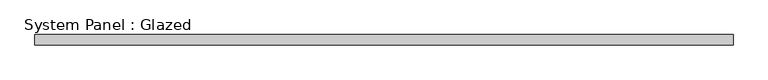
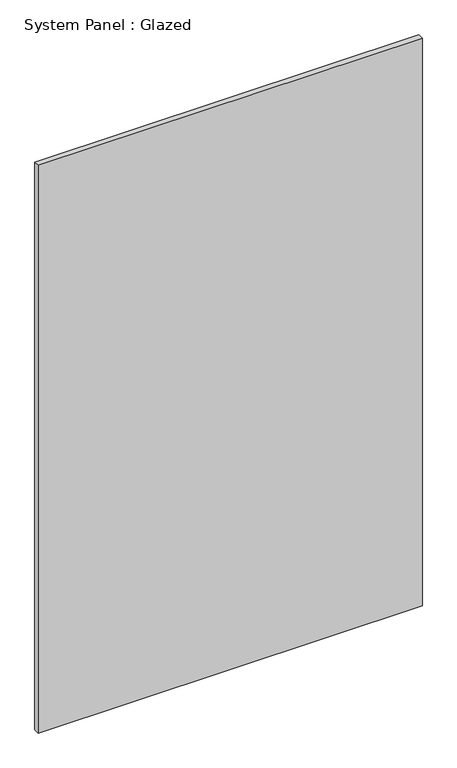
"""IFC4 building model written with IfcOpenShell, lengths in millimetres: plate geometry, System Panel : Glazed."""

import ifcopenshell
import ifcopenshell.guid

model = None  # the IFC model being written
_history = None  # IfcOwnerHistory: only IFC2X3 demands one
_inside = {}  # id of a spatial element -> (the spatial element, [elements in it])
_under = {}  # id of a project, library or spatial element -> (it, [spatial elements below it])
_declared = {}  # id of a project -> (the project, [libraries it declares])
_typed = {}  # id of a type object -> (the type object, [elements of that type])
_made_of = {}  # id of a material, layer set ... -> (it, [elements and type objects made of it])


def new_model(schema):
    """Start an empty IFC model of exactly this schema.

    Asked for "IFC4X3", IfcOpenShell would pick the latest addendum, in which some entities
    have other attributes; the version numbers below select the first issue.
    IFC2X3 requires an IfcOwnerHistory on every rooted entity: one is made here for all.
    """
    global model, _history
    if schema == "IFC4X3":
        model = ifcopenshell.file(schema_version=(4, 3, 0, 0))
    else:
        model = ifcopenshell.file(schema=schema)
    _inside.clear()
    _under.clear()
    _declared.clear()
    _typed.clear()
    _made_of.clear()
    _history = None
    if model.schema == "IFC2X3":
        org = make("IfcOrganization", Name="unknown")
        user = make(
            "IfcPersonAndOrganization",
            ThePerson=make("IfcPerson", FamilyName="unknown"),
            TheOrganization=org,
        )
        app = make(
            "IfcApplication",
            ApplicationDeveloper=org,
            Version="unknown",
            ApplicationFullName="unknown",
            ApplicationIdentifier="unknown",
        )
        _history = make(
            "IfcOwnerHistory",
            OwningUser=user,
            OwningApplication=app,
            ChangeAction="ADDED",
            CreationDate=0,
        )
    return model


def make(cls, **values):
    """One entity of the class cls with the attributes given. An attribute that is None is left unset."""
    return model.create_entity(
        cls, **{name: value for name, value in values.items() if value is not None}
    )


def rooted(cls, **values):
    """An entity with a GlobalId (a new one), such as an element, a storey or a relation."""
    return make(cls, GlobalId=ifcopenshell.guid.new(), OwnerHistory=_history, **values)


def si_unit(unit_type, name, prefix=None):
    """IfcSIUnit, for example si_unit("LENGTHUNIT", "METRE", prefix="MILLI")."""
    return make("IfcSIUnit", UnitType=unit_type, Prefix=prefix, Name=name)


def assignment(units):
    """IfcUnitAssignment: the units of a project."""
    return None if units is None else make("IfcUnitAssignment", Units=units)


def point(xyz):
    """IfcCartesianPoint."""
    return None if xyz is None else make("IfcCartesianPoint", Coordinates=xyz)


def direction(xyz):
    """IfcDirection."""
    return None if xyz is None else make("IfcDirection", DirectionRatios=xyz)


def frame(location, z_axis=None, x_axis=None):
    """IfcAxis2Placement3D, a coordinate frame: its origin and axes. An axis left out is left unset."""
    return make(
        "IfcAxis2Placement3D",
        Location=point(location),
        Axis=direction(z_axis),
        RefDirection=direction(x_axis),
    )


def origin():
    """The frame at (0, 0, 0) with its axes left unset."""
    return frame((0.0, 0.0, 0.0))


def origin_with_axes():
    """The frame at (0, 0, 0) with the z axis (0, 0, 1) and the x axis (1, 0, 0) written out."""
    return frame((0.0, 0.0, 0.0), z_axis=(0.0, 0.0, 1.0), x_axis=(1.0, 0.0, 0.0))


def place(relative_to, where):
    """IfcLocalPlacement: puts the frame where relative to a parent placement (None: the world)."""
    return make(
        "IfcLocalPlacement", PlacementRelTo=relative_to, RelativePlacement=where
    )


def context(
    kind, dimensions, precision=None, world=None, true_north=None, identifier=None
):
    """IfcGeometricRepresentationContext, for example the 3D "Model" context."""
    return make(
        "IfcGeometricRepresentationContext",
        ContextIdentifier=identifier,
        ContextType=kind,
        CoordinateSpaceDimension=dimensions,
        Precision=precision,
        WorldCoordinateSystem=world,
        TrueNorth=true_north,
    )


def project(units=None, contexts=None):
    """IfcProject with its units and contexts."""
    return rooted(
        "IfcProject",
        Name="project",
        RepresentationContexts=contexts,
        UnitsInContext=assignment(units),
    )


def spatial(cls, under=None, at=None, **own):
    """A site, building, storey or space (cls), placed at a placement, below another one or the project."""
    s = rooted(cls, ObjectPlacement=at, **own)
    if under is not None:
        _under.setdefault(under.id(), (under, []))[1].append(s)
    return s


def polyline(points):
    """IfcPolyline through the points."""
    return make("IfcPolyline", Points=[point(p) for p in points])


def outline(outer, holes=None, kind="AREA"):
    """IfcArbitraryClosedProfileDef: a profile drawn as a closed curve; with holes, ...WithVoids."""
    if holes is None:
        return make("IfcArbitraryClosedProfileDef", ProfileType=kind, OuterCurve=outer)
    return make(
        "IfcArbitraryProfileDefWithVoids",
        ProfileType=kind,
        OuterCurve=outer,
        InnerCurves=holes,
    )


def extrude(swept, where, along, depth):
    """IfcExtrudedAreaSolid: the profile swept, set in the frame where, extruded along a direction by depth."""
    return make(
        "IfcExtrudedAreaSolid",
        SweptArea=swept,
        Position=where,
        ExtrudedDirection=direction(along),
        Depth=depth,
    )


def shape(context_of_items, identifier, shape_type, items):
    """IfcShapeRepresentation: the items that make up one representation, for example the "Body"."""
    return make(
        "IfcShapeRepresentation",
        ContextOfItems=context_of_items,
        RepresentationIdentifier=identifier,
        RepresentationType=shape_type,
        Items=items,
    )


def source(mapping_origin, context_of_items, identifier, shape_type, items):
    """IfcRepresentationMap: a shape defined once, which mapped items show again and again."""
    return make(
        "IfcRepresentationMap",
        MappingOrigin=mapping_origin,
        MappedRepresentation=shape(context_of_items, identifier, shape_type, items),
    )


def transform(
    local_origin,
    x_axis=None,
    y_axis=None,
    z_axis=None,
    scale=None,
    scale2=None,
    scale3=None,
    uniform=True,
):
    """IfcCartesianTransformationOperator3D, or its non-uniform kind. x_axis, y_axis, z_axis: its Axis1, 2, 3."""
    if uniform:
        return make(
            "IfcCartesianTransformationOperator3D",
            Axis1=direction(x_axis),
            Axis2=direction(y_axis),
            LocalOrigin=point(local_origin),
            Scale=scale,
            Axis3=direction(z_axis),
        )
    return make(
        "IfcCartesianTransformationOperator3DnonUniform",
        Axis1=direction(x_axis),
        Axis2=direction(y_axis),
        LocalOrigin=point(local_origin),
        Scale=scale,
        Axis3=direction(z_axis),
        Scale2=scale2,
        Scale3=scale3,
    )


def mapped(mapping_source, mapping_target):
    """IfcMappedItem: shows the shape of a source again, moved by a transform."""
    return make(
        "IfcMappedItem", MappingSource=mapping_source, MappingTarget=mapping_target
    )


def made_of(thing, what):
    """Note that an element or type object is made of a material, layer set ...; save() writes the relation."""
    if what is not None:
        _made_of.setdefault(what.id(), (what, []))[1].append(thing)
    return thing


def element(
    cls,
    number,
    at=None,
    inside=None,
    cuts=None,
    type_object=None,
    material=None,
    context=None,
    identifier="Body",
    shape_type=None,
    held_by="IfcProductDefinitionShape",
    body=None,
    shapes=None,
    **own,
):
    """One element of the class cls, such as IfcWall. Its Tag is "e" and its number.

    at: its placement. inside: the storey or other place that contains it. cuts: it is an
    opening in that element (IfcRelVoidsElement). A single representation is given by context,
    identifier, shape_type and body (its items); several are given by shapes. held_by: the class
    of the entity that holds the representations. save() writes the other relations.
    """
    e = rooted(cls, Tag="e%d" % number, ObjectPlacement=at, **own)
    if body is not None:
        shapes = [shape(context, identifier, shape_type, body)]
    if shapes is not None:
        e.Representation = make(held_by, Representations=shapes)
    if inside is not None:
        _inside.setdefault(inside.id(), (inside, []))[1].append(e)
    if cuts is not None:
        rooted(
            "IfcRelVoidsElement", RelatingBuildingElement=cuts, RelatedOpeningElement=e
        )
    if type_object is not None:
        _typed.setdefault(type_object.id(), (type_object, []))[1].append(e)
    return made_of(e, material)


def aggregate(whole, parts):
    """IfcRelAggregates: a whole, such as a stair, and the parts it consists of."""
    return rooted("IfcRelAggregates", RelatingObject=whole, RelatedObjects=parts)


def save(model, path):
    """Write the relations noted so far, then the file.

    IfcRelAggregates (storeys below a building ...), IfcRelContainedInSpatialStructure (elements
    in a storey), IfcRelDefinesByType, IfcRelAssociatesMaterial and IfcRelDeclares: one each for
    every whole, place, type object, material and project.
    """
    for whole, parts in _under.values():
        aggregate(whole, parts)
    for where, things in _inside.values():
        rooted(
            "IfcRelContainedInSpatialStructure",
            RelatedElements=things,
            RelatingStructure=where,
        )
    for kind, things in _typed.values():
        rooted("IfcRelDefinesByType", RelatedObjects=things, RelatingType=kind)
    for what, things in _made_of.values():
        rooted("IfcRelAssociatesMaterial", RelatedObjects=things, RelatingMaterial=what)
    for by, libraries in _declared.values():
        rooted("IfcRelDeclares", RelatingContext=by, RelatedDefinitions=libraries)
    model.write(path)


def system_panel_glazed_96820018(model_context):
    return source(origin(), model_context, "Body", "SweptSolid", [
        extrude(outline(polyline([(868.2793088, 19.05), (-868.2793088, 19.05), (-868.2793088, 44.45), (868.2793088, 44.45), (868.2793088, 19.05)])), origin_with_axes(), (0.0, 0.0, 1.0), 2711.4294337),
    ])


if __name__ == "__main__":
    model = new_model("IFC4")
    model_context = context("Model", 3, world=origin())
    ifc_project = project(units=[si_unit("LENGTHUNIT", "METRE", prefix="MILLI")], contexts=[model_context])
    site = spatial("IfcSite", under=ifc_project)
    building = spatial("IfcBuilding", under=site)
    placement = place(None, origin())
    system_panel_glazed_shape = system_panel_glazed_96820018(model_context)
    element("IfcPlate", 1, ObjectType="System Panel : Glazed", at=placement, inside=building, context=model_context, shape_type="MappedRepresentation", body=[
        mapped(system_panel_glazed_shape, transform((0.0, 0.0, 0.0), x_axis=(1.0, 0.0, 0.0), y_axis=(0.0, 1.0, 0.0), z_axis=(0.0, 0.0, 1.0))),
    ])
    save(model, "model.ifc")
